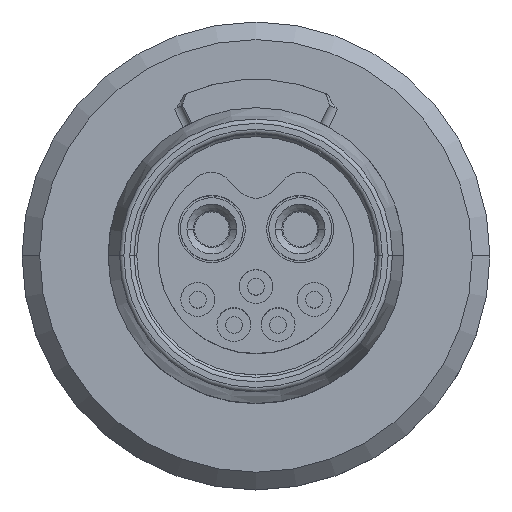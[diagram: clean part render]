
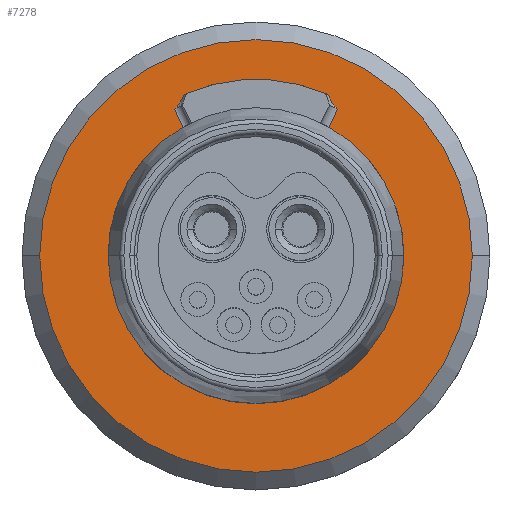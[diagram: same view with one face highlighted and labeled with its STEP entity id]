
A CAD part, top view. The second image highlights one B-rep face of the part: STEP entity #7278.
In plain terms, the highlighted planar face has unit normal (0, 0, 1).
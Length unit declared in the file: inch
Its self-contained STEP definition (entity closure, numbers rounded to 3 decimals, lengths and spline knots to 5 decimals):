
#38 = DIRECTION ( 'NONE',  ( 0., 0., 1. ) ) ;
#143 = FACE_OUTER_BOUND ( 'NONE', #19074, .T. ) ;
#206 = EDGE_CURVE ( 'NONE', #4705, #4331, #7160, .T. ) ;
#433 = AXIS2_PLACEMENT_3D ( 'NONE', #16455, #12296, #12200 ) ;
#590 = VERTEX_POINT ( 'NONE', #8820 ) ;
#1054 = CIRCLE ( 'NONE', #2321, 0.1675 ) ;
#1130 = ORIENTED_EDGE ( 'NONE', *, *, #4976, .T. ) ;
#1554 = FACE_BOUND ( 'NONE', #8485, .T. ) ;
#1665 = CARTESIAN_POINT ( 'NONE',  ( -0.08151, 0.18264, 0.048 ) ) ;
#1767 = DIRECTION ( 'NONE',  ( 1., 0., 0. ) ) ;
#2026 = CARTESIAN_POINT ( 'NONE',  ( -0.1675, 0., 0.048 ) ) ;
#2321 = AXIS2_PLACEMENT_3D ( 'NONE', #10634, #38, #1767 ) ;
#2424 = CARTESIAN_POINT ( 'NONE',  ( 0.09226, 0.16636, 0.048 ) ) ;
#2465 = CARTESIAN_POINT ( 'NONE',  ( 0.0815, 0.18264, 0.048 ) ) ;
#2661 = CARTESIAN_POINT ( 'NONE',  ( -0.08228, 0.1459, 0.048 ) ) ;
#3169 = EDGE_CURVE ( 'NONE', #4705, #14951, #9776, .T. ) ;
#3313 = DIRECTION ( 'NONE',  ( 0., 0., 1. ) ) ;
#3685 = LINE ( 'NONE', #6673, #13928 ) ;
#3777 = DIRECTION ( 'NONE',  ( -0.438, -0.899, 0. ) ) ;
#4331 = VERTEX_POINT ( 'NONE', #14176 ) ;
#4705 = VERTEX_POINT ( 'NONE', #17153 ) ;
#4843 = AXIS2_PLACEMENT_3D ( 'NONE', #5072, #16013, #17616 ) ;
#4941 = CARTESIAN_POINT ( 'NONE',  ( 0., 0., 0.048 ) ) ;
#4961 = CARTESIAN_POINT ( 'NONE',  ( -0.245, 0., 0.048 ) ) ;
#4976 = EDGE_CURVE ( 'NONE', #14951, #7893, #3685, .T. ) ;
#5030 = CARTESIAN_POINT ( 'NONE',  ( 0., 0., 0.048 ) ) ;
#5072 = CARTESIAN_POINT ( 'NONE',  ( 0., 0., 0.048 ) ) ;
#5130 = DIRECTION ( 'NONE',  ( 0., 0., 1. ) ) ;
#5426 = VERTEX_POINT ( 'NONE', #2026 ) ;
#5530 = CARTESIAN_POINT ( 'NONE',  ( 0.245, 0., 0.048 ) ) ;
#6060 = CARTESIAN_POINT ( 'NONE',  ( 0., 0., 0.048 ) ) ;
#6079 = ORIENTED_EDGE ( 'NONE', *, *, #14557, .T. ) ;
#6140 = VECTOR ( 'NONE', #9179, 39.37008 ) ;
#6673 = CARTESIAN_POINT ( 'NONE',  ( 0.00899, -0.00438, 0.048 ) ) ;
#7043 = ORIENTED_EDGE ( 'NONE', *, *, #10115, .T. ) ;
#7160 = CIRCLE ( 'NONE', #15427, 0.2 ) ;
#7278 = ADVANCED_FACE ( 'NONE', ( #143, #1554 ), #7840, .T. ) ;
#7309 = LINE ( 'NONE', #13461, #6140 ) ;
#7708 = AXIS2_PLACEMENT_3D ( 'NONE', #5030, #5130, #11068 ) ;
#7840 = PLANE ( 'NONE',  #4843 ) ;
#7893 = VERTEX_POINT ( 'NONE', #8291 ) ;
#8291 = CARTESIAN_POINT ( 'NONE',  ( 0.08228, 0.1459, 0.048 ) ) ;
#8317 = ORIENTED_EDGE ( 'NONE', *, *, #13547, .F. ) ;
#8390 = AXIS2_PLACEMENT_3D ( 'NONE', #6060, #10621, #18810 ) ;
#8485 = EDGE_LOOP ( 'NONE', ( #18514, #14164, #11048, #18051, #19717, #1130, #16295, #8317 ) ) ;
#8531 = CARTESIAN_POINT ( 'NONE',  ( 0.08544, 0.17372, 0.048 ) ) ;
#8820 = CARTESIAN_POINT ( 'NONE',  ( -0.09226, 0.16635, 0.048 ) ) ;
#8829 = DIRECTION ( 'NONE',  ( 0., 0., 1. ) ) ;
#9042 = CIRCLE ( 'NONE', #433, 0.1675 ) ;
#9179 = DIRECTION ( 'NONE',  ( -0.438, 0.899, 0. ) ) ;
#9448 = EDGE_CURVE ( 'NONE', #19088, #7893, #13739, .T. ) ;
#9776 = B_SPLINE_CURVE_WITH_KNOTS ( 'NONE', 3,
 ( #2465, #8531, #14603, #11118 ),
 .UNSPECIFIED., .F., .F.,
 ( 4, 4 ),
 ( 0., 1. ),
 .UNSPECIFIED. ) ;
#9852 = EDGE_CURVE ( 'NONE', #10452, #590, #7309, .T. ) ;
#10115 = EDGE_CURVE ( 'NONE', #13070, #13938, #19196, .T. ) ;
#10452 = VERTEX_POINT ( 'NONE', #2661 ) ;
#10621 = DIRECTION ( 'NONE',  ( 0., 0., 1. ) ) ;
#10634 = CARTESIAN_POINT ( 'NONE',  ( 0., 0., 0.048 ) ) ;
#10930 = CARTESIAN_POINT ( 'NONE',  ( -0.08546, 0.17367, 0.048 ) ) ;
#11048 = ORIENTED_EDGE ( 'NONE', *, *, #18801, .T. ) ;
#11068 = DIRECTION ( 'NONE',  ( 1., 0., 0. ) ) ;
#11118 = CARTESIAN_POINT ( 'NONE',  ( 0.09226, 0.16636, 0.048 ) ) ;
#12063 = EDGE_CURVE ( 'NONE', #10452, #5426, #1054, .T. ) ;
#12200 = DIRECTION ( 'NONE',  ( 1., 0., 0. ) ) ;
#12226 = CARTESIAN_POINT ( 'NONE',  ( -0.08905, 0.16824, 0.048 ) ) ;
#12296 = DIRECTION ( 'NONE',  ( 0., 0., 1. ) ) ;
#12647 = CARTESIAN_POINT ( 'NONE',  ( 0., 0., 0.048 ) ) ;
#12750 = DIRECTION ( 'NONE',  ( -1., 0., 0. ) ) ;
#13070 = VERTEX_POINT ( 'NONE', #5530 ) ;
#13461 = CARTESIAN_POINT ( 'NONE',  ( -0.00899, -0.00438, 0.048 ) ) ;
#13547 = EDGE_CURVE ( 'NONE', #5426, #19088, #9042, .T. ) ;
#13739 = CIRCLE ( 'NONE', #7708, 0.1675 ) ;
#13928 = VECTOR ( 'NONE', #3777, 39.37008 ) ;
#13938 = VERTEX_POINT ( 'NONE', #4961 ) ;
#14144 = CIRCLE ( 'NONE', #16697, 0.245 ) ;
#14164 = ORIENTED_EDGE ( 'NONE', *, *, #9852, .T. ) ;
#14176 = CARTESIAN_POINT ( 'NONE',  ( -0.08151, 0.18264, 0.048 ) ) ;
#14557 = EDGE_CURVE ( 'NONE', #13938, #13070, #14144, .T. ) ;
#14603 = CARTESIAN_POINT ( 'NONE',  ( 0.08902, 0.16828, 0.048 ) ) ;
#14951 = VERTEX_POINT ( 'NONE', #2424 ) ;
#15012 = CARTESIAN_POINT ( 'NONE',  ( 0.1675, 0., 0.048 ) ) ;
#15427 = AXIS2_PLACEMENT_3D ( 'NONE', #12647, #3313, #12750 ) ;
#16013 = DIRECTION ( 'NONE',  ( 0., 0., 1. ) ) ;
#16295 = ORIENTED_EDGE ( 'NONE', *, *, #9448, .F. ) ;
#16455 = CARTESIAN_POINT ( 'NONE',  ( 0., 0., 0.048 ) ) ;
#16517 = DIRECTION ( 'NONE',  ( 1., 0., 0. ) ) ;
#16697 = AXIS2_PLACEMENT_3D ( 'NONE', #4941, #8829, #16517 ) ;
#17153 = CARTESIAN_POINT ( 'NONE',  ( 0.0815, 0.18264, 0.048 ) ) ;
#17616 = DIRECTION ( 'NONE',  ( 1., 0., 0. ) ) ;
#18051 = ORIENTED_EDGE ( 'NONE', *, *, #206, .F. ) ;
#18514 = ORIENTED_EDGE ( 'NONE', *, *, #12063, .F. ) ;
#18525 = CARTESIAN_POINT ( 'NONE',  ( -0.09226, 0.16635, 0.048 ) ) ;
#18801 = EDGE_CURVE ( 'NONE', #590, #4331, #18978, .T. ) ;
#18810 = DIRECTION ( 'NONE',  ( 1., 0., 0. ) ) ;
#18978 = B_SPLINE_CURVE_WITH_KNOTS ( 'NONE', 3,
 ( #18525, #12226, #10930, #1665 ),
 .UNSPECIFIED., .F., .F.,
 ( 4, 4 ),
 ( 0., 1. ),
 .UNSPECIFIED. ) ;
#19074 = EDGE_LOOP ( 'NONE', ( #6079, #7043 ) ) ;
#19088 = VERTEX_POINT ( 'NONE', #15012 ) ;
#19196 = CIRCLE ( 'NONE', #8390, 0.245 ) ;
#19717 = ORIENTED_EDGE ( 'NONE', *, *, #3169, .T. ) ;
